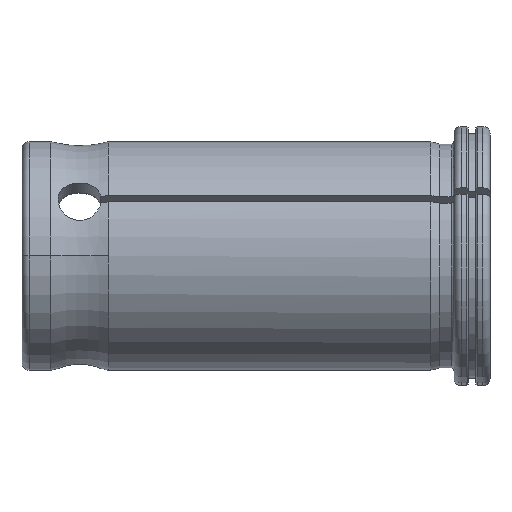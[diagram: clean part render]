
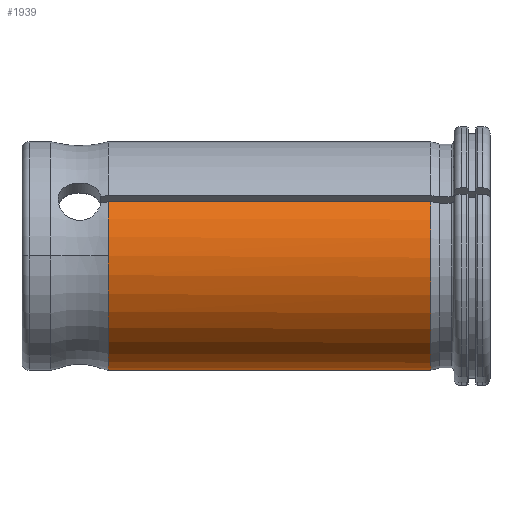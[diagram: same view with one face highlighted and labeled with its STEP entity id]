
A CAD part, top view. The second image highlights one B-rep face of the part: STEP entity #1939.
In plain terms, the highlighted cylindrical face has radius 15.875 mm (diameter 31.75 mm), a partial arc.
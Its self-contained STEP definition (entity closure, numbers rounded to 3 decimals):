
#8=CARTESIAN_POINT('',(-53.,7.501,13.991));
#15=CARTESIAN_POINT('',(-53.,0.,0.));
#16=DIRECTION('',(1.,0.,0.));
#17=DIRECTION('',(0.,0.472,0.881));
#18=AXIS2_PLACEMENT_3D('',#15,#16,#17);
#70=DIRECTION('',(1.,0.,0.));
#71=VECTOR('',#70,44.787);
#72=CARTESIAN_POINT('',(-53.,7.501,13.991));
#73=LINE('',#72,#71);
#74=CARTESIAN_POINT('',(-8.213,0.,0.));
#75=DIRECTION('',(1.,0.,0.));
#76=DIRECTION('',(0.,0.472,0.881));
#77=AXIS2_PLACEMENT_3D('',#74,#75,#76);
#79=DIRECTION('',(1.,0.,0.));
#80=VECTOR('',#79,44.787);
#81=CARTESIAN_POINT('',(-53.,-15.867,0.5));
#82=LINE('',#81,#80);
#121=CARTESIAN_POINT('',(-8.213,7.501,13.991));
#138=CARTESIAN_POINT('',(-8.213,-15.867,0.5));
#1486=CARTESIAN_POINT('',(-53.,-15.867,0.5));
#1510=CARTESIAN_POINT('',(-53.,0.,0.));
#1511=DIRECTION('',(-1.,0.,0.));
#1512=DIRECTION('',(0.,-1.,0.031));
#1513=AXIS2_PLACEMENT_3D('',#1510,#1511,#1512);
#1570=CARTESIAN_POINT('',(-53.,0.,15.875));
#1572=VERTEX_POINT('',#1570);
#1625=VERTEX_POINT('',#1486);
#1662=VERTEX_POINT('',#138);
#1739=VERTEX_POINT('',#8);
#1804=VERTEX_POINT('',#121);
#1923=CARTESIAN_POINT('',(-68.25,0.,0.));
#1924=DIRECTION('',(1.,0.,0.));
#1925=DIRECTION('',(0.,0.,1.));
#1926=AXIS2_PLACEMENT_3D('',#1923,#1924,#1925);
#1927=CYLINDRICAL_SURFACE('',#1926,15.875);
#1929=ORIENTED_EDGE('',*,*,#1928,.T.);
#1931=ORIENTED_EDGE('',*,*,#1930,.T.);
#1933=ORIENTED_EDGE('',*,*,#1932,.F.);
#1935=ORIENTED_EDGE('',*,*,#1934,.T.);
#1936=ORIENTED_EDGE('',*,*,#1816,.F.);
#1937=EDGE_LOOP('',(#1929,#1931,#1933,#1935,#1936));
#1938=FACE_OUTER_BOUND('',#1937,.F.);
#1939=ADVANCED_FACE('',(#1938),#1927,.T.);
#19=CIRCLE('',#18,15.875);
#78=CIRCLE('',#77,15.875);
#1514=CIRCLE('',#1513,15.875);
#1816=EDGE_CURVE('',#1739,#1572,#19,.T.);
#1928=EDGE_CURVE('',#1739,#1804,#73,.T.);
#1930=EDGE_CURVE('',#1804,#1662,#78,.T.);
#1932=EDGE_CURVE('',#1625,#1662,#82,.T.);
#1934=EDGE_CURVE('',#1625,#1572,#1514,.T.);
